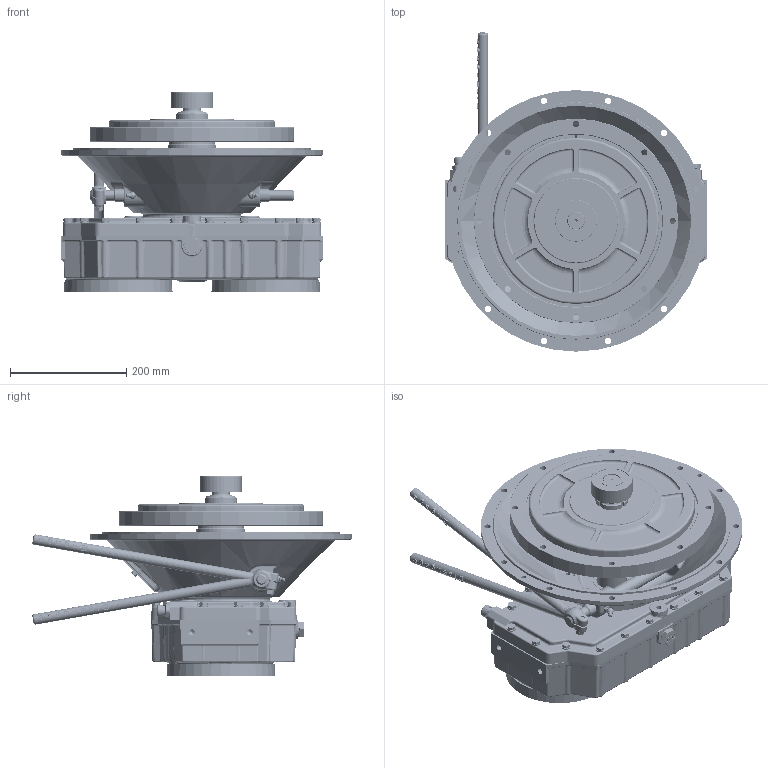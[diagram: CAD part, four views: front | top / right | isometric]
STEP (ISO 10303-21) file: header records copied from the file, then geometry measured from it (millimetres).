
FILE_DESCRIPTION (( 'STEP AP214' ), '1' );
FILE_NAME ('1029013B.STEP', '2015-06-08T09:51:22', ( '' ), ( '' ), 'SwSTEP 2.0', 'SolidWorks 2007', '' );
FILE_SCHEMA (( 'AUTOMOTIVE_DESIGN' ));
Length unit declared in the file: millimetre
Products named in the file (9): IT2021180_rev06-installation; ITB00110000_rev01-installation; ITam216-002_rev00-installation; IT1003204W_rev00-installation; IT1041103_rev00-installation; ITam216-013_rev00-installation; IT4605168-installation; 1029013B
Assembly tree (9 placements, depth 2):
  1029013B
    IT2021180_rev06-installation  x2
    IT4605168-installation
    ITam216-013_rev00-installation
    ITam216-002_rev00-installation
    ITB00110000_rev01-installation
    IT1003204W_rev00-installation
    IT1041103_rev00-installation
    IT1041103_rev00-installation
Bounding box: 451 x 550.51 x 344 mm (x, y, z)
Volume: 1510512.8 mm3; surface area: 2335499.2 mm2
Topology: 24 solids, 134 shells, 7175 faces, 18187 edges, 11574 vertices
Faces by surface type: plane 2993, cylinder 1865, bspline 1380, cone 455, torus 442, sphere 40
Entity records: 344168 total; most frequent: CARTESIAN_POINT 107612, ORIENTED_EDGE 34715, DIRECTION 30237, EDGE_CURVE 17366, VERTEX_POINT 11110, AXIS2_PLACEMENT_3D 10608, VECTOR 9021, LINE 9021
